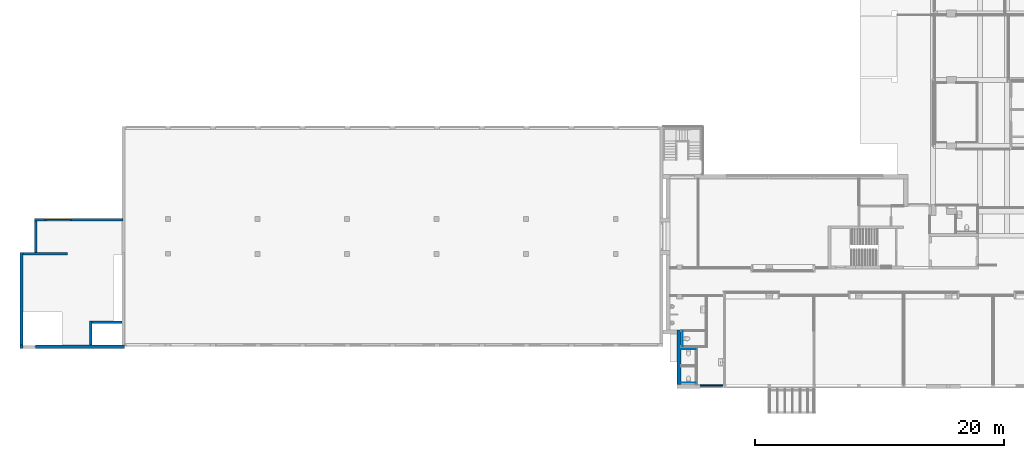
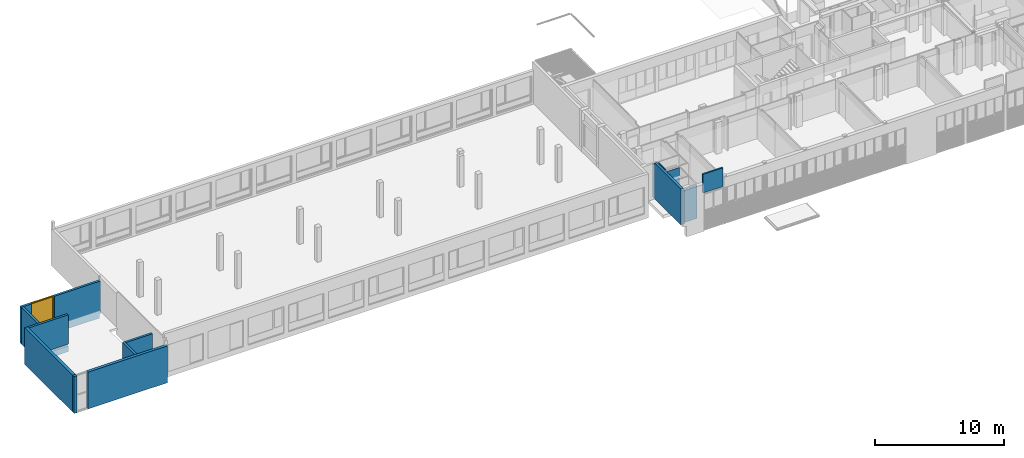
# One storey, part 11 of 117: 12 walls, 1 door, 2 openings.
"""IFC2X3 building model written with IfcOpenShell, lengths in millimetres."""

from ifc_helpers import new_model, entity, si_unit, converted_unit, derived_unit, money_unit, direction, frame, origin_with_axes, place, context, subcontext, project, spatial, faceted_brep, source, transform, mapped, material, type_object, type_shapes, element, fill, save


model = new_model("IFC2X3")

# Units and contexts
model_context = context("Model", 3, precision=0.01, world=origin_with_axes(), true_north=direction((0.0, 1.0)))
body_context = subcontext(model_context, "Body", "Model", "MODEL_VIEW")
ifc_project = project(units=[si_unit("LENGTHUNIT", "METRE", prefix="MILLI"), si_unit("AREAUNIT", "SQUARE_METRE"), si_unit("VOLUMEUNIT", "CUBIC_METRE"), converted_unit("PLANEANGLEUNIT", "DEGREE", entity("IfcPlaneAngleMeasure", 0.0174532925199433), si_unit("PLANEANGLEUNIT", "RADIAN"), dimensions=[0, 0, 0, 0, 0, 0, 0]), money_unit("EUR"), converted_unit("TIMEUNIT", "Year", entity("IfcTimeMeasure", 31557600.0), si_unit("TIMEUNIT", "SECOND"), dimensions=[0, 0, 1, 0, 0, 0, 0]), si_unit("MASSUNIT", "GRAM", prefix="KILO"), si_unit("THERMODYNAMICTEMPERATUREUNIT", "DEGREE_CELSIUS"), si_unit("LUMINOUSINTENSITYUNIT", "LUMEN"), si_unit("ENERGYUNIT", "JOULE", prefix="MEGA"), derived_unit("THERMALCONDUCTANCEUNIT", [(si_unit("POWERUNIT", "WATT"), 1), (si_unit("LENGTHUNIT", "METRE"), -1), (si_unit("THERMODYNAMICTEMPERATUREUNIT", "KELVIN"), -1)]), derived_unit("SPECIFICHEATCAPACITYUNIT", [(si_unit("ENERGYUNIT", "JOULE"), 1), (si_unit("MASSUNIT", "GRAM", prefix="KILO"), -1), (si_unit("THERMODYNAMICTEMPERATUREUNIT", "KELVIN"), -1)]), derived_unit("MASSDENSITYUNIT", [(si_unit("MASSUNIT", "GRAM", prefix="KILO"), 1), (si_unit("VOLUMEUNIT", "CUBIC_METRE"), -1)])], contexts=[model_context])

# Site, building, storey
site_placement = place(None, origin_with_axes())
site = spatial("IfcSite", under=ifc_project, at=site_placement, Name="Site", CompositionType="ELEMENT")
building_placement = place(site_placement, origin_with_axes())
building = spatial("IfcBuilding", under=site, at=building_placement, Name="Naam gebouw", CompositionType="ELEMENT")
storey_placement = place(building_placement, frame((0.0, 0.0, 4150.0), z_axis=(0.0, 0.0, 1.0), x_axis=(1.0, 0.0, 0.0)))
storey = spatial("IfcBuildingStorey", under=building, at=storey_placement, Name="1e verdieping N", CompositionType="ELEMENT", Elevation=4150.0)

# Walls
ifc_material_1 = material(Name="ALG - CONSTRUCTIEF")
wall_type_1 = type_object("IfcWallType", Name="ALG - CONSTRUCTIEF 200", PredefinedType="NOTDEFINED")
wall_1_placement = place(storey_placement, frame((-53049.99999999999, 13965.57502434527, -1200.0), z_axis=(0.0, 0.0, 1.0), x_axis=(1.0, 0.0, 0.0)))
element("IfcWall", 1, at=wall_1_placement, inside=storey, type_object=wall_type_1, material=ifc_material_1, Name="_Wand-x", context=body_context, shape_type="Brep", body=[
    faceted_brep([(3799.999999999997, -99.99999999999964, 3500.0), (3799.999999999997, -99.99999999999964, 720.0000000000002), (3799.999999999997, 99.99999999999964, 720.0000000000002), (3799.999999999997, 99.99999999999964, 3500.0), (1350.000000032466, -100.0000007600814, 520.0), (1350.000000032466, -100.0000007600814, 720.0000000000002), (250.0, -99.99999999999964, 3500.0), (250.0, -99.99999999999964, 0.0), (3799.999999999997, -99.99999999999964, 0.0), (3799.999999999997, -99.99999999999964, 520.0), (1350.000000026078, 99.99999999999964, 720.0000000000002), (1350.000000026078, 99.99999999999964, 520.0), (3799.999999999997, 99.99999999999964, 520.0), (3799.999999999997, 99.99999999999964, 0.0), (250.0, 99.99999999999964, 0.0), (250.0, 99.99999999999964, 3500.0)], [[[0, 1, 2, 3]], [[4, 5, 1, 0, 6, 7, 8, 9]], [[5, 10, 2, 1]], [[10, 11, 12, 13, 14, 15, 3, 2]], [[15, 6, 0, 3]], [[4, 11, 10, 5]], [[14, 7, 6, 15]], [[13, 8, 7, 14]], [[13, 12, 9, 8]], [[4, 9, 12, 11]]]),
])
wall_2_placement = place(storey_placement, frame((-51799.99999999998, 16690.57502431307, -1200.0), z_axis=(0.0, 0.0, 1.0), x_axis=(0.0, -1.0, 0.0)))
element("IfcWall", 2, at=wall_2_placement, inside=storey, type_object=wall_type_1, material=ifc_material_1, Name="_Wand-x", context=body_context, shape_type="Brep", body=[
    faceted_brep([(99.99999993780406, -100.0000000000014, 3500.0), (2624.999999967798, -100.0000000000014, 3500.0), (2624.999999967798, 100.0000000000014, 3500.0), (99.99999993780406, 100.0000000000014, 3500.0), (2624.999999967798, -100.0000000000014, 0.0), (99.99999993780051, -100.0000000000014, 719.9999999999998), (99.99999993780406, -100.0000000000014, 0.0), (2624.999999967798, 100.0000000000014, 0.0), (99.99999993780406, 100.0000000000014, 0.0)], [[[0, 1, 2, 3]], [[4, 1, 0, 5, 6]], [[7, 2, 1, 4]], [[3, 2, 7, 8]], [[5, 0, 3, 8, 6]], [[8, 7, 4, 6]]]),
])
wall_3_placement = place(storey_placement, frame((-47349.99999999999, 8465.505143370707, -1200.0), z_axis=(0.0, 0.0, 1.0), x_axis=(1.0, 0.0, 0.0)))
element("IfcWall", 3, at=wall_3_placement, inside=storey, type_object=wall_type_1, material=ifc_material_1, Name="_Wand-x", context=body_context, shape_type="Brep", body=[
    faceted_brep([(100.0000000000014, 99.99999999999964, 0.0), (100.0000000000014, 99.99999999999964, 520.0000000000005), (1799.999999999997, 99.99999999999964, 520.0000000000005), (1799.999999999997, 99.99999999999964, 719.9999999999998), (100.0000000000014, 99.99999999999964, 719.9999999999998), (100.0000000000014, 99.99999999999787, 3500.0), (2499.999999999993, 99.99999999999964, 3500.0), (2499.999999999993, 99.99999999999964, 0.0), (100.0000000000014, -99.99999999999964, 0.0), (100.0000000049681, -99.99999999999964, 520.0000000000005), (1800.000000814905, -99.99999991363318, 520.0), (1800.000000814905, -99.99999991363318, 720.0000000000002), (100.0000000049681, -99.99999999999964, 719.9999999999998), (100.0000000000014, -99.99999999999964, 3500.0), (2499.999999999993, -99.99999999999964, 3500.0), (2499.999999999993, -99.99999999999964, 0.0)], [[[0, 1, 2, 3, 4, 5, 6, 7]], [[8, 9, 1, 0]], [[10, 2, 1, 9]], [[11, 3, 2, 10]], [[12, 4, 3, 11]], [[5, 4, 12, 13]], [[14, 6, 5, 13]], [[15, 7, 6, 14]], [[7, 15, 8, 0]], [[11, 10, 9, 8, 15, 14, 13, 12]]]),
])
wall_4_placement = place(storey_placement, frame((-47349.99999999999, 6365.575024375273, -1200.0), z_axis=(0.0, 0.0, 1.0), x_axis=(0.0, 1.0, 0.0)))
element("IfcWall", 4, at=wall_4_placement, inside=storey, type_object=wall_type_1, material=ifc_material_1, Name="_Wand-x", context=body_context, shape_type="Brep", body=[
    faceted_brep([(2199.930118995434, 99.99999999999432, 0.0), (2199.930118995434, 100.0000000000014, 520.0000000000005), (2199.930118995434, -100.0000000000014, 520.0000000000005), (2199.930118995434, -100.0000000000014, 0.0), (250.0, 100.0000000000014, 0.0), (250.0000000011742, 100.0000000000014, 520.0000000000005), (250.0000000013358, -100.0000000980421, 520.0), (250.0, -100.0000000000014, 0.0)], [[[0, 1, 2, 3]], [[4, 5, 1, 0]], [[6, 2, 1, 5]], [[2, 6, 7, 3]], [[0, 3, 7, 4]], [[7, 6, 5, 4]]]),
    faceted_brep([(250.0, -100.0000000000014, 3500.0), (250.0000000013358, -100.0000000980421, 720.0000000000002), (2199.930118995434, -100.0000000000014, 719.9999999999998), (2199.93011899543, -100.0000000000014, 3500.0), (250.0, 100.0000000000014, 3500.0), (250.0000000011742, 100.0000000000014, 719.9999999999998), (2199.930118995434, 100.0000000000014, 719.9999999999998), (2199.93011899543, 99.99999999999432, 3500.0)], [[[0, 1, 2, 3]], [[4, 5, 1, 0]], [[5, 6, 2, 1]], [[3, 2, 6, 7]], [[7, 4, 0, 3]], [[7, 6, 5, 4]]]),
])

# Wall, opening, door
wall_5_placement = place(storey_placement, frame((-44750.00000008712, 16690.57502437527, -1200.0), z_axis=(0.0, 0.0, 1.0), x_axis=(-1.0, 0.0, 0.0)))
wall_5 = element("IfcWall", 5, at=wall_5_placement, inside=storey, type_object=wall_type_1, material=ifc_material_1, Name="_Wand-x", context=body_context, shape_type="Brep", body=[
    faceted_brep([(6253.618601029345, -100.0000000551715, 1200.0), (4163.618565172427, -100.0000000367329, 1200.0), (4163.618565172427, -100.0000000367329, 3500.0), (-8.810729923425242e-10, -100.0000000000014, 3500.0), (0.0, -100.0000000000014, 410.0000000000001), (99.99999999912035, -100.0000000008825, 410.0000000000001), (99.99999999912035, -100.0000000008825, 0.0), (7149.999999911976, -100.0000000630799, 0.0), (7149.999999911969, -100.0000000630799, 719.9999999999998), (7149.999999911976, -100.0000000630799, 3500.0), (6253.618601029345, -100.0000000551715, 3500.0), (6253.618601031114, 99.99999994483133, 1200.0), (4163.618565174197, 99.99999996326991, 1200.0), (4163.618565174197, 99.99999996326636, 3500.0), (8.881784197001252e-10, 100.0000000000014, 3500.0), (1.769251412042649e-09, 99.99999999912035, 410.0000000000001), (100.0000000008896, 99.99999999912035, 410.0000000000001), (100.0000000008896, 99.99999999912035, 0.0), (7149.999999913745, 99.99999993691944, 0.0), (7149.999999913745, 99.99999993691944, 3500.0), (6253.618601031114, 99.99999994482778, 3500.0)], [[[0, 1, 2, 3, 4, 5, 6, 7, 8, 9, 10]], [[1, 0, 11, 12]], [[13, 2, 1, 12]], [[2, 13, 14, 3]], [[15, 4, 3, 14]], [[5, 4, 15, 16]], [[6, 5, 16, 17]], [[6, 17, 18, 7]], [[9, 8, 7, 18, 19]], [[20, 10, 9, 19]], [[0, 10, 20, 11]], [[11, 20, 19, 18, 17, 16, 15, 14, 13, 12]]]),
])
opening_1_placement = place(wall_5_placement, frame((5208.618583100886, 4.595079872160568e-08, 1200.0), z_axis=(0.0, 0.0, 1.0), x_axis=(1.0, 0.0, 0.0)))
opening_1 = element("IfcOpeningElement", 6, at=opening_1_placement, cuts=wall_5, Name="_Merk-x", context=body_context, shape_type="Brep", body=[
    faceted_brep([(1045.000017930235, 101.0000000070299, 2300.0), (1045.000017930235, 101.0000000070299, 0.0), (-1045.000017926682, 101.0000000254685, 0.0), (-1045.000017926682, 101.0000000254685, 2300.0), (1045.000017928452, -101.0000000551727, 2300.0), (1045.000017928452, -101.0000000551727, 0.0), (-1045.000017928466, -101.0000000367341, 0.0), (-1045.000017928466, -101.0000000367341, 2300.0)], [[[0, 1, 2, 3]], [[4, 5, 1, 0]], [[5, 6, 2, 1]], [[6, 7, 3, 2]], [[7, 4, 0, 3]], [[6, 5, 4, 7]]]),
])
door_style = type_object("IfcDoorStyle", Name="D2 27", ConstructionType="NOTDEFINED", OperationType="DOUBLE_DOOR_SINGLE_SWING", ParameterTakesPrecedence=False, Sizeable=False)
shared_shape = source(origin_with_axes(), body_context, "Body", "Brep", [
    faceted_brep([(-978.000017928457, -40.0, 0.0), (-978.0000179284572, -39.99999999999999, 2233.0), (-978.0000179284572, -114.0, 2233.0), (-978.0000179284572, -114.0, 0.0), (-995.0000179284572, -40.0, 2233.0), (-995.0000179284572, -40.0, 0.0), (-995.0000179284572, 0.0, 2233.0), (-1045.000017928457, 0.0, 2233.0), (-1045.000017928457, -114.0, 2233.0), (-1045.000017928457, -114.0, 0.0), (-1045.000017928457, 0.0, 0.0), (-995.0000179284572, 0.0, 0.0)], [[[0, 1, 2, 3]], [[4, 1, 0, 5]], [[4, 6, 7, 8, 2, 1]], [[3, 2, 8, 9]], [[5, 0, 3, 9, 10, 11]], [[6, 4, 5, 11]], [[6, 11, 10, 7]], [[10, 9, 8, 7]]]),
    faceted_brep([(995.0000179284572, -40.0, 2233.0), (978.0000179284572, -39.99999999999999, 2233.0), (978.0000179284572, -114.0, 2233.0), (1045.000017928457, -114.0, 2233.0), (1045.000017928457, 0.0, 2233.0), (995.0000179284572, 0.0, 2233.0), (995.0000179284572, -40.0, 0.0), (978.0000179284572, -40.0, 0.0), (978.0000179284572, -114.0, 0.0), (1045.000017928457, -114.0, 0.0), (1045.000017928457, 0.0, 0.0), (995.0000179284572, 0.0, 0.0)], [[[0, 1, 2, 3, 4, 5]], [[1, 0, 6, 7]], [[1, 7, 8, 2]], [[3, 2, 8, 9]], [[4, 3, 9, 10]], [[11, 5, 4, 10]], [[0, 5, 11, 6]], [[6, 11, 10, 9, 8, 7]]]),
    faceted_brep([(-995.0000179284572, 0.0, 2250.0), (-995.0000179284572, 0.0, 2233.0), (-1045.000017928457, 0.0, 2233.0), (-1045.000017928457, 0.0, 2300.0), (1045.000017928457, 0.0, 2300.0), (1045.000017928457, 0.0, 2233.0), (995.0000179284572, 0.0, 2233.0), (995.0000179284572, 0.0, 2250.0), (-995.0000179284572, -40.0, 2250.0), (-995.0000179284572, -40.0, 2233.0), (-978.0000179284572, -39.99999999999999, 2233.0), (-978.0000179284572, -114.0, 2233.0), (-1045.000017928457, -114.0, 2233.0), (-1045.000017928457, -114.0, 2300.0), (1045.000017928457, -114.0, 2300.0), (1045.000017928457, -114.0, 2233.0), (995.0000179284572, -40.0, 2233.0), (978.0000179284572, -114.0, 2233.0), (978.0000179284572, -39.99999999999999, 2233.0), (995.0000179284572, -40.0, 2250.0)], [[[0, 1, 2, 3, 4, 5, 6, 7]], [[1, 0, 8, 9]], [[9, 10, 11, 12, 2, 1]], [[2, 12, 13, 3]], [[3, 13, 14, 4]], [[4, 14, 15, 5]], [[16, 6, 5, 15, 17, 18]], [[7, 6, 16, 19]], [[0, 7, 19, 8]], [[16, 18, 10, 9, 8, 19]], [[10, 18, 17, 11]], [[17, 15, 14, 13, 12, 11]]]),
    faceted_brep([(995.0000179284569, 0.0, 0.0), (995.0000179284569, -40.0, 0.0), (0.0, -40.0, 0.0), (0.0, 0.0, 0.0), (995.0000179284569, 0.0, 2250.0), (995.0000179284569, -40.00000000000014, 2250.0), (0.0, -40.00000000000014, 2250.0), (0.0, 0.0, 2250.0)], [[[0, 1, 2, 3]], [[4, 5, 1, 0]], [[1, 5, 6, 2]], [[3, 2, 6, 7]], [[0, 3, 7, 4]], [[7, 6, 5, 4]]]),
    faceted_brep([(-995.0000179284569, 0.0, 0.0), (0.0, 0.0, 0.0), (0.0, -40.0, 0.0), (-995.0000179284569, -40.0, 0.0), (-995.0000179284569, 0.0, 2250.0), (0.0, 0.0, 2250.0), (0.0, -40.00000000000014, 2250.0), (-995.0000179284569, -40.00000000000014, 2250.0)], [[[0, 1, 2, 3]], [[0, 4, 5, 1]], [[1, 5, 6, 2]], [[3, 2, 6, 7]], [[4, 0, 3, 7]], [[5, 4, 7, 6]]]),
])
type_shapes(door_style, [shared_shape])
door_placement = place(opening_1_placement, frame((1045.000017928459, 9.2192919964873e-09, 0.0), z_axis=(0.0, 0.0, 1.0), x_axis=(-1.0, 0.0, 0.0)))
door = element("IfcDoor", 7, at=door_placement, inside=storey, type_object=door_style, Name="_Merk-x", ObjectType="DOOR", OverallHeight=2300.0, OverallWidth=2090.0, context=body_context, shape_type="MappedRepresentation", body=[
    mapped(shared_shape, transform((1045.000017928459, 100.0000000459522, 0.0))),
])
fill(opening_1, door)

# Walls
wall_type_2 = type_object("IfcWallType", Name="ALG - CONSTRUCTIEF 330", PredefinedType="NOTDEFINED")
wall_6_placement = place(storey_placement, frame((100.0000479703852, 3445.668707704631, 0.0), z_axis=(0.0, 0.0, 1.0), x_axis=(0.0, 1.0, 0.0)))
element("IfcWall", 8, at=wall_6_placement, inside=storey, type_object=wall_type_2, material=ifc_material_1, Name="_Wand-x", context=body_context, shape_type="Brep", body=[
    faceted_brep([(4060.111134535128, 330.0000000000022, 3200.0), (4060.111134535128, 100.0000479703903, 3200.0), (4060.111134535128, 0.0, 3200.0), (4390.111134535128, 0.0, 3200.0), (4390.111134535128, 330.0000000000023, 3200.0), (4060.111134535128, 330.0000000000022, 3400.0), (4060.111134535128, 100.0000479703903, 3400.0), (-0.009735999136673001, 100.0000479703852, 3200.0), (-0.009735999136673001, 0.0, 3200.0), (0.0, 0.0, 0.0), (4390.111134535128, 0.0, 0.0), (4390.111134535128, 330.0000000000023, 0.0), (0.0, 330.0000000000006, 3400.0), (0.0, 330.0000000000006, 0.0), (-0.009735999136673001, 100.0000479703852, 3400.0)], [[[0, 1, 2, 3, 4]], [[5, 6, 1, 0]], [[7, 8, 2, 1]], [[3, 2, 8, 9, 10]], [[10, 11, 4, 3]], [[12, 5, 0, 4, 11, 13]], [[12, 14, 6, 5]], [[7, 1, 6, 14]], [[8, 7, 14, 12, 13, 9]], [[10, 9, 13, 11]]]),
])
wall_type_3 = type_object("IfcWallType", Name="ALG - CONSTRUCTIEF 250", PredefinedType="NOTDEFINED")
wall_7_placement = place(storey_placement, frame((-53049.99999999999, 13965.57502434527, -1200.0), z_axis=(0.0, 0.0, 1.0), x_axis=(0.0, -1.0, 0.0)))
element("IfcWall", 9, at=wall_7_placement, inside=storey, type_object=wall_type_3, material=ifc_material_1, Name="_Wand-x", context=body_context, shape_type="Brep", body=[
    faceted_brep([(-99.99999999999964, 0.0, 3500.0), (7349.999999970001, 0.0, 3500.0), (7349.999999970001, 250.0, 3500.0), (-99.99999999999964, 250.0, 3500.0), (7349.999999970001, 0.0, 0.0), (7349.999999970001, 0.0, 719.9999999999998), (-99.99999999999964, 0.0, 0.0), (7349.999999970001, 250.0, 0.0), (-99.99999999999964, 250.0, 0.0)], [[[0, 1, 2, 3]], [[4, 5, 1, 0, 6]], [[7, 2, 1, 5, 4]], [[3, 2, 7, 8]], [[6, 0, 3, 8]], [[8, 7, 4, 6]]]),
])

# Wall, opening
wall_8_placement = place(storey_placement, frame((-44649.99999999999, 6365.575024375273, -1200.0), z_axis=(0.0, 0.0, 1.0), x_axis=(-1.0, 0.0, 0.0)))
wall_8 = element("IfcWall", 10, at=wall_8_placement, inside=storey, type_object=wall_type_3, material=ifc_material_1, Name="_Wand-x", context=body_context, shape_type="Brep", body=[
    faceted_brep([(8149.999999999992, -100.0000000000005, 3499.999999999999), (8149.999999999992, -250.0000000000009, 3499.999999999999), (8399.99999999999, -250.0000000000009, 3500.0), (8399.99999999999, 0.0, 3500.0), (8149.999999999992, 0.0, 3499.999999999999), (8149.999999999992, -100.0000000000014, 0.0), (8149.999999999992, -250.0000000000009, 0.0), (8149.999999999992, 0.0, 0.0), (8399.99999999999, -250.0000000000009, 0.0), (8399.99999999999, -250.0000000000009, 719.9999999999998), (8399.99999999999, 0.0, 719.9999999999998), (8399.99999999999, 0.0, 0.0)], [[[0, 1, 2, 3, 4]], [[5, 6, 1, 0, 4, 7]], [[1, 6, 8, 9, 2]], [[10, 3, 2, 9, 8, 11]], [[3, 10, 11, 7, 4]], [[6, 5, 7, 11, 8]]]),
    faceted_brep([(7149.999999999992, -250.0000000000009, 0.0), (7149.999999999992, -250.0000000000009, 3499.999999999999), (0.0, -250.0, 3500.0), (0.0, -250.0, 0.0), (7149.999999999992, -100.0000000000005, 3499.999999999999), (7149.999999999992, -100.0000000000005, 0.0), (7149.999999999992, 0.0, 0.0), (7149.999999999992, 0.0, 3499.999999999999), (0.0, 0.0, 3500.0), (0.0, 0.0, 0.0)], [[[0, 1, 2, 3]], [[4, 1, 0, 5, 6, 7]], [[1, 4, 7, 8, 2]], [[8, 9, 3, 2]], [[5, 0, 3, 9, 6]], [[6, 9, 8, 7]]]),
])
opening_2_placement = place(wall_8_placement, frame((7649.999999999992, 0.0, 0.0), z_axis=(0.0, 0.0, 1.0), x_axis=(1.0, 0.0, 0.0)))
element("IfcOpeningElement", 11, at=opening_2_placement, cuts=wall_8, Name="_Merk-x", context=body_context, shape_type="Brep", body=[
    faceted_brep([(-500.0, -100.0000000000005, 0.0), (-500.0, -100.0000000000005, 3499.999999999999), (-500.0, 1.00000000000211, 3499.999999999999), (-500.0, 1.00000000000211, 0.0), (-500.0, -251.0000000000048, 0.0), (-500.0, -251.0000000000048, 3499.999999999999), (500.0, -100.0000000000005, 3499.999999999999), (500.0, 1.00000000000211, 3499.999999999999), (500.0, -251.0000000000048, 3499.999999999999), (500.0, 1.000000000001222, 0.0), (500.0, -100.0000000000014, 0.0), (500.0, -251.0000000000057, 0.0)], [[[0, 1, 2, 3]], [[1, 0, 4, 5]], [[6, 7, 2, 1, 5, 8]], [[7, 9, 3, 2]], [[0, 3, 9, 10, 11, 4]], [[5, 4, 11, 8]], [[6, 10, 9, 7]], [[10, 6, 8, 11]]]),
])

# Walls
wall_type_4 = type_object("IfcWallType", Name="ALG - CONSTRUCTIEF 146", PredefinedType="NOTDEFINED")
wall_9_placement = place(storey_placement, frame((1662.498759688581, 3445.658971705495, 2440.0), z_axis=(0.0, 0.0, 1.0), x_axis=(0.999999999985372, 5.408888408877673e-06, 0.0)))
element("IfcWall", 12, at=wall_9_placement, inside=storey, type_object=wall_type_4, material=ifc_material_1, Name="_Wand-x", context=body_context, shape_type="Brep", body=[
    faceted_brep([(-0.0007896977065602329, -145.9999999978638, 0.0), (0.0, 0.0, 0.0), (1800.000000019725, -0.009735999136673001, 0.0), (1799.999210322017, -146.0097359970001, 0.0), (-0.0007896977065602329, -145.9999999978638, 1780.000000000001), (0.0, 0.0, 1780.000000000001), (1800.000000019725, -0.009735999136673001, 1780.000000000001), (1799.999210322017, -146.0097359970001, 1780.000000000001)], [[[0, 1, 2, 3]], [[4, 5, 1, 0]], [[1, 5, 6, 2]], [[7, 3, 2, 6]], [[4, 0, 3, 7]], [[5, 4, 7, 6]]]),
])
ifc_material_2 = material(Name="Gipsplaat")
wall_type_5 = type_object("IfcWallType", Name="Metalstud 150 enkel 150", PredefinedType="NOTDEFINED")
wall_10_placement = place(storey_placement, frame((100.0000479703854, 6295.658971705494, 0.0), z_axis=(0.0, 0.0, 1.0), x_axis=(1.0, 0.0, 0.0)))
element("IfcWall", 13, at=wall_10_placement, inside=storey, type_object=wall_type_5, material=ifc_material_2, Name="_Wand-x", context=body_context, shape_type="Brep", body=[
    faceted_brep([(1200.0, 12.50000000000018, 0.0), (1200.0, 0.0, 0.0), (0.0, 0.0, 0.0), (0.0, 12.50000000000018, 0.0), (1200.0, 12.50000000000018, 3199.999999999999), (1200.0, 0.0, 3199.999999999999), (0.0, 0.0, 3199.999999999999), (0.0, 12.50000000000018, 3199.999999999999)], [[[0, 1, 2, 3]], [[1, 0, 4, 5]], [[1, 5, 6, 2]], [[7, 3, 2, 6]], [[4, 0, 3, 7]], [[5, 4, 7, 6]]]),
])
wall_11_placement = place(storey_placement, frame((250.0000479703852, 6544.463550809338, 0.0), z_axis=(0.0, 0.0, 1.0), x_axis=(0.0, 1.0, 0.0)))
element("IfcWall", 14, at=wall_11_placement, inside=storey, type_object=wall_type_5, material=ifc_material_2, Name="_Wand-x", context=body_context, shape_type="Brep", body=[
    faceted_brep([(0.0, 12.50000000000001, 0.0), (1191.316291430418, 12.50000000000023, 0.0), (1191.316291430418, 0.0, 0.0), (0.0, 0.0, 0.0), (0.0, 12.50000000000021, 3199.999999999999), (1191.316291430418, 12.50000000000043, 3199.999999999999), (1191.316291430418, 0.0, 3199.999999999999), (0.0, 0.0, 3199.999999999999)], [[[0, 1, 2, 3]], [[4, 5, 1, 0]], [[2, 1, 5, 6]], [[3, 2, 6, 7]], [[4, 0, 3, 7]], [[7, 6, 5, 4]]]),
])
wall_12_placement = place(storey_placement, frame((100.000047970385, 3595.668707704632, 0.0), z_axis=(0.0, 0.0, 1.0), x_axis=(1.0, 0.0, 0.0)))
element("IfcWall", 15, at=wall_12_placement, inside=storey, type_object=wall_type_5, material=ifc_material_2, Name="_Wand-x", context=body_context, shape_type="Brep", body=[
    faceted_brep([(1200.0, -12.49999999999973, 3199.999999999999), (1200.0, 0.0, 3199.999999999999), (0.0, 0.0, 3199.999999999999), (0.0, -12.49999999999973, 3199.999999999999), (1200.0, -12.49999999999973, 0.0), (1200.0, 0.0, 0.0), (0.0, 0.0, 0.0), (0.0, -12.50000000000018, 0.0)], [[[0, 1, 2, 3]], [[1, 0, 4, 5]], [[1, 5, 6, 2]], [[7, 3, 2, 6]], [[4, 0, 3, 7]], [[5, 4, 7, 6]]]),
])

save(model, "model.ifc")
